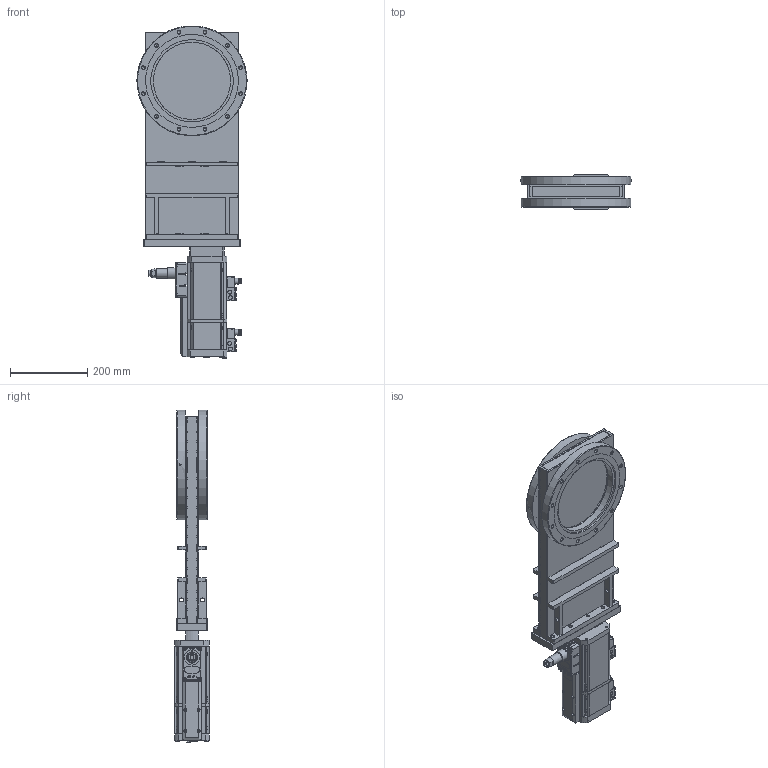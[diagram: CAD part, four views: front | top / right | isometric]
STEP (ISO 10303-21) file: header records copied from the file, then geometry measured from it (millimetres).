
FILE_DESCRIPTION(/* description */ (''),/* implementation_level */ '2;1');
FILE_NAME(/* name */ '1018891756_203.stp',/* time_stamp */ '2021-11-11T11:37:13+01:00',/* author */ (''),/* organization */ (''),/* preprocessor_version */ 'ST-DEVELOPER v16.7',/* originating_system */ 'SIEMENS PLM Software NX 1915',/* authorisation */ '');
FILE_SCHEMA (('AP203_CONFIGURATION_CONTROLLED_3D_DESIGN_OF_MECHANICAL_PARTS_AND_ASSEMBLIES_MIM_LF { 1 0 10303 403 2 1 2}'));
Length unit declared in the file: millimetre
Products named in the file (72): 833986_30517ID; 833986_30519ID; 834001_30521ID; 834001_30522ID; 834006_30524ID; 834014_30526ID; 834014_30527ID; 834046_30529ID; 834046_30530ID; 834046_30531ID; 834046_30532ID; 834044_30533ID; 834044_30534ID; 834044_30535ID; 834044_30515ID; n-6197-034.1; n-7100-007.2; 395614; 94220-01.1; 94224-01.2; 23964-01.1_30512ID; 23964-01.1_30508ID; n-6099-511.1; 419634; 70728-01.1; 70729-01.1; 462327; n-6195-413.1; 560554; 334324.1; 317248.1; n-7100-335_1.1; n-6005-473.1; 421366; 961456; n-6013-447.1; N-6005-437.1; N-6005-477.1; 72979-01.1; 72846-01.1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
Assembly tree (114 placements, depth 4):
  899729
    94237-r1.2
      67114-01.1  x4
      395615
        94224-01.2
        94220-01.1
        395614
        n-7100-007.2  x2
        n-6197-034.1
    778871  x6
    n-8504-002
    70973-01.1
    n-6024-548.1  x4
    N-7557-018.1  x2
    N-6024-524.1  x12
    N-7557-016_1.1  x2
    N-5018-005.1  x4
    N-7557-016_2.1  x2
    74628-01.3
    N-7557-016_3.1_MODELNX-ARRAGMNTArrangement 1  x2
      437235
      467882
      982213
    94308-r1.3_NX-ARRAGMNTZUSAMMENST1
      70732.1  x4
      94312-01.1
      73705-01.1
      73691-01.1
      70738-01.1
      73700-01.1
      73692-01.1
      79606-01.2
      73706-01.1
      72846-01.1
      72979-01.1  x2
      N-6005-477.1  x4
      N-6005-437.1  x4
      n-6013-447.1  x2
      961456
      421366
      n-6005-473.1  x2
      n-7100-335_1.1
      317248.1
      334324.1
      560554
      n-6195-413.1
      462327
      70729-01.1
      70728-01.1
      419634
    889066_MODEL
      834047_MODEL
        834044_30515ID
        834044_30535ID
        834044_30534ID
        834044_30533ID
        834046_30532ID
        834046_30531ID
        834046_30530ID
        834046_30529ID
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Bounding box: 285 x 90 x 859.36 mm (x, y, z)
Volume: 5590744.1 mm3; surface area: 1404237.7 mm2
Topology: 129 solids, 129 shells, 3446 faces, 8785 edges, 5838 vertices
Faces by surface type: plane 2165, cylinder 787, cone 242, torus 162, sphere 38, extrusion 30, bspline 22
Full cylindrical faces by diameter (mm): 0.6 x1, 0.725 x1, 1.2 x1, 1.5 x6, 1.66 x7, 2 x3, 2.125 x1, 2.5 x11, 2.65 x1, 3 x22, 3.2 x4, 3.25 x2, 3.26 x4, 3.3 x14, 3.4 x8, 3.5 x6, 4 x18, 4.05 x4, 4.2 x5, 4.22 x2, 4.3 x6, 4.35 x2, 4.4 x8, 4.45 x4, 4.5 x2, 4.625 x2, 4.96 x6, 5 x22, 5.3 x2, 5.4 x4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
Entity records: 86147 total; most frequent: CARTESIAN_POINT 20159, DIRECTION 11693, ORIENTED_EDGE 11224, EDGE_CURVE 5612, VERTEX_POINT 4110, AXIS2_PLACEMENT_3D 4082, VECTOR 3529, LINE 3503
